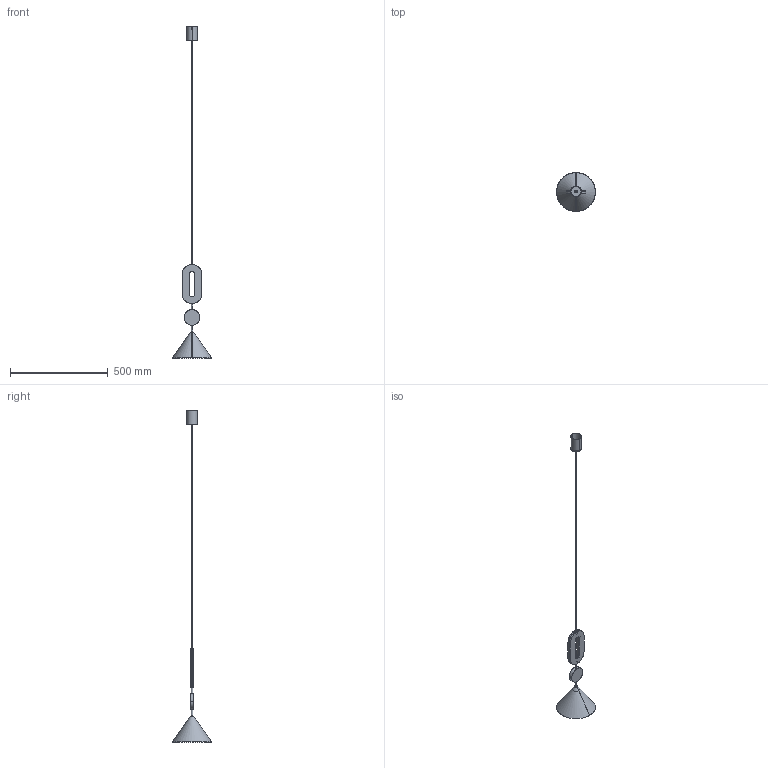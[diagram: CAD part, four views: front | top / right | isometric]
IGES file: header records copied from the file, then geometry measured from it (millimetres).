
Start section: SolidWorks IGES file using analytic representation for surfaces
Global section: file name: C:\Users\anna.bielnik\Desktop\DROPS COLOR E\NL2500015182.IGS; native system: SolidWorks 2024; preprocessor: SolidWorks 2024; author: anna.bielnik; date: 251205.094901; units: millimetre
Bounding box: 200 x 200 x 1700 mm (x, y, z)
Surface area: 269528.3 mm2 (no closed solid volume)
Topology: 0 solids, 0 shells, 151 faces, 3416 edges, 3416 vertices
Faces by surface type: revolution 80, bspline 71
